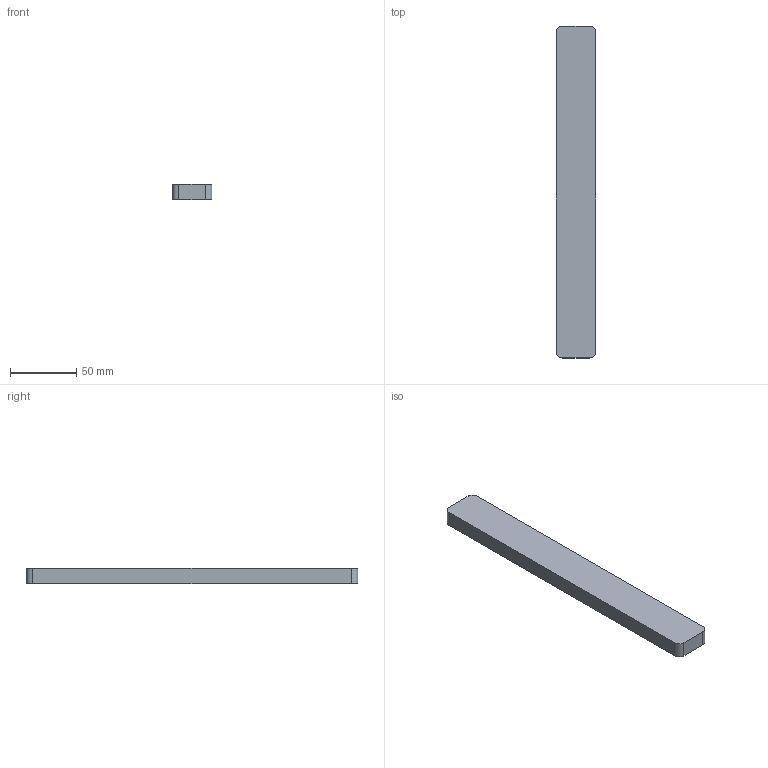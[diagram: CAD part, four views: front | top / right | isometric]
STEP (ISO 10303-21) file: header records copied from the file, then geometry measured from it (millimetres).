
FILE_DESCRIPTION(('Open CASCADE Model'),'2;1');
FILE_NAME('Open CASCADE Shape Model','2026-09-19T16:36:15',('Author'),( 'Open CASCADE'),'Open CASCADE STEP processor 7.8','Open CASCADE 7.8' ,'Unknown');
FILE_SCHEMA(('AUTOMOTIVE_DESIGN { 1 0 10303 214 1 1 1 1 }'));
Length unit declared in the file: millimetre
Products named in the file (1): Open CASCADE STEP translator 7.8 15
Bounding box: 30 x 250 x 12 mm (x, y, z)
Volume: 89742.5 mm3; surface area: 21574.1 mm2
Topology: 1 solids, 1 shells, 10 faces, 24 edges, 16 vertices
Faces by surface type: plane 6, cylinder 4
Entity records: 630 total; most frequent: CARTESIAN_POINT 123, DIRECTION 98, LINE 56, VECTOR 56, ORIENTED_EDGE 48, PCURVE 48, DEFINITIONAL_REPRESENTATION 48, EDGE_CURVE 24
